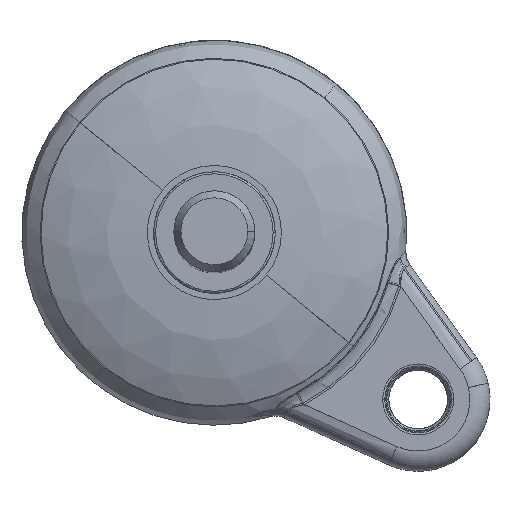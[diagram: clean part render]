
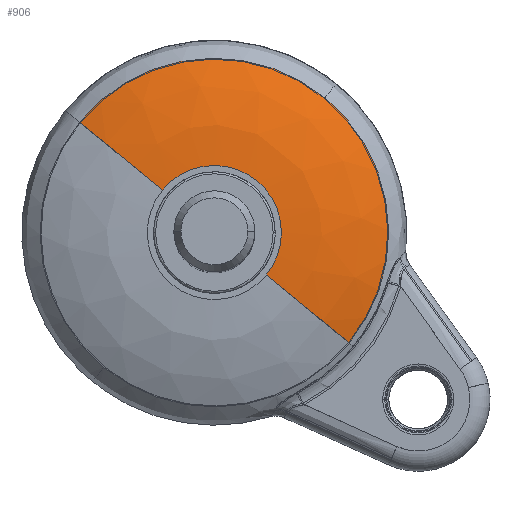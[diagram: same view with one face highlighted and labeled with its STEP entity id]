
A CAD part, top view. The second image highlights one B-rep face of the part: STEP entity #906.
In plain terms, the highlighted free-form (B-spline) face has degree [2, 2] with [7, 5] control points.
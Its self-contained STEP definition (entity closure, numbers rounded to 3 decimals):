
#18 = EDGE_CURVE ( 'NONE', #8350, #10184, #5602, .T. ) ;
#225 = CARTESIAN_POINT ( 'NONE',  ( 41.484, 50.683, -27.297 ) ) ;
#229 = EDGE_CURVE ( 'NONE', #10184, #7020, #1542, .T. ) ;
#271 = CARTESIAN_POINT ( 'NONE',  ( 25.899, 31.643, 7.407 ) ) ;
#390 = DIRECTION ( 'NONE',  ( -0.774, 0.633, 0. ) ) ;
#444 = CARTESIAN_POINT ( 'NONE',  ( 0., 0., -119.672 ) ) ;
#906 = ADVANCED_FACE ( 'NONE', ( #1762 ), #5488, .T. ) ;
#965 = CARTESIAN_POINT ( 'NONE',  ( 0., 0., -4.328 ) ) ;
#1078 = CARTESIAN_POINT ( 'NONE',  ( -31.643, 25.899, -131.407 ) ) ;
#1130 = CARTESIAN_POINT ( 'NONE',  ( 41.484, 50.683, -96.703 ) ) ;
#1180 = CARTESIAN_POINT ( 'NONE',  ( -9.199, 92.167, -96.703 ) ) ;
#1253 = CARTESIAN_POINT ( 'NONE',  ( -9.199, 92.167, -27.297 ) ) ;
#1309 = CARTESIAN_POINT ( 'NONE',  ( 57.068, 69.724, -62. ) ) ;
#1542 =( BOUNDED_CURVE ( )  B_SPLINE_CURVE ( 2, ( #8364, #11176, #6060 ),
 .UNSPECIFIED., .F., .T. ) 
 B_SPLINE_CURVE_WITH_KNOTS ( ( 3, 3 ),
 ( -0.198, -0.078 ),
 .UNSPECIFIED. ) 
 CURVE ( )  GEOMETRIC_REPRESENTATION_ITEM ( )  RATIONAL_B_SPLINE_CURVE ( ( 0.911, 0.899, 0.934 ) ) 
 REPRESENTATION_ITEM ( '' )  );
#1610 = ORIENTED_EDGE ( 'NONE', *, *, #18, .F. ) ;
#1731 = CARTESIAN_POINT ( 'NONE',  ( -12.807, 10.483, -2. ) ) ;
#1762 = FACE_OUTER_BOUND ( 'NONE', #4114, .T. ) ;
#1867 = CARTESIAN_POINT ( 'NONE',  ( 0., 0., -4.328 ) ) ;
#1986 = CARTESIAN_POINT ( 'NONE',  ( -50.683, 41.484, -27.297 ) ) ;
#2023 = DIRECTION ( 'NONE',  ( 0.774, -0.633, 0. ) ) ;
#2204 = ORIENTED_EDGE ( 'NONE', *, *, #3840, .T. ) ;
#2222 = CARTESIAN_POINT ( 'NONE',  ( -50.683, 41.484, -96.703 ) ) ;
#2451 = ORIENTED_EDGE ( 'NONE', *, *, #5568, .T. ) ;
#2829 = CARTESIAN_POINT ( 'NONE',  ( 92.167, 9.2, -27.297 ) ) ;
#2892 = CARTESIAN_POINT ( 'NONE',  ( 126.792, 12.656, -62. ) ) ;
#3567 = CARTESIAN_POINT ( 'NONE',  ( 0., 0., -4.328 ) ) ;
#3663 = CARTESIAN_POINT ( 'NONE',  ( 0., 0., -8.158 ) ) ;
#3686 = CARTESIAN_POINT ( 'NONE',  ( 0., 0., -119.672 ) ) ;
#3740 = CARTESIAN_POINT ( 'NONE',  ( -12.656, 126.792, -62. ) ) ;
#3840 = EDGE_CURVE ( 'NONE', #8350, #5041, #4334, .T. ) ;
#4114 = EDGE_LOOP ( 'NONE', ( #4536, #1610, #2204, #2451 ) ) ;
#4191 = AXIS2_PLACEMENT_3D ( 'NONE', #6333, #8086, #390 ) ;
#4334 =( BOUNDED_CURVE ( )  B_SPLINE_CURVE ( 2, ( #10488, #6103, #7928 ),
 .UNSPECIFIED., .F., .T. ) 
 B_SPLINE_CURVE_WITH_KNOTS ( ( 3, 3 ),
 ( -0.198, -0.078 ),
 .UNSPECIFIED. ) 
 CURVE ( )  GEOMETRIC_REPRESENTATION_ITEM ( )  RATIONAL_B_SPLINE_CURVE ( ( 0.911, 0.899, 0.934 ) ) 
 REPRESENTATION_ITEM ( '' )  );
#4536 = ORIENTED_EDGE ( 'NONE', *, *, #229, .F. ) ;
#5041 = VERTEX_POINT ( 'NONE', #1731 ) ;
#5276 = CARTESIAN_POINT ( 'NONE',  ( 0., 0., -4.328 ) ) ;
#5447 = CARTESIAN_POINT ( 'NONE',  ( 69.724, -57.068, -62. ) ) ;
#5488 =( BOUNDED_SURFACE ( )  B_SPLINE_SURFACE ( 2, 2, ( 
 ( #6164, #5276, #965, #3567, #1867 ),
 ( #9006, #10822, #271, #7993, #9906 ),
 ( #5498, #2829, #225, #1253, #1986 ),
 ( #5447, #2892, #1309, #3740, #10600 ),
 ( #9982, #5554, #1130, #1180, #2222 ),
 ( #5672, #7189, #6386, #5618, #1078 ),
 ( #3686, #8898, #444, #7360, #7137 ) ),
 .UNSPECIFIED., .F., .F., .T. ) 
 B_SPLINE_SURFACE_WITH_KNOTS ( ( 3, 2, 2, 3 ),
 ( 3, 2, 3 ),
 ( 0., 0.333, 0.667, 1. ),
 ( 0., 0.25, 0.5 ),
 .UNSPECIFIED. ) 
 GEOMETRIC_REPRESENTATION_ITEM ( )  RATIONAL_B_SPLINE_SURFACE ( (
 ( 1., 0.707, 1., 0.707, 1.),
 ( 0.816, 0.577, 0.816, 0.577, 0.816),
 ( 1., 0.707, 1., 0.707, 1.),
 ( 0.816, 0.577, 0.816, 0.577, 0.816),
 ( 1., 0.707, 1., 0.707, 1.),
 ( 0.816, 0.577, 0.816, 0.577, 0.816),
 ( 1., 0.707, 1., 0.707, 1.) ) ) 
 REPRESENTATION_ITEM ( '' )  SURFACE ( )  );
#5498 = CARTESIAN_POINT ( 'NONE',  ( 50.683, -41.484, -27.297 ) ) ;
#5554 = CARTESIAN_POINT ( 'NONE',  ( 92.167, 9.2, -96.703 ) ) ;
#5568 = EDGE_CURVE ( 'NONE', #5041, #7020, #8520, .T. ) ;
#5602 = CIRCLE ( 'NONE', #8494, 43.028 ) ;
#5618 = CARTESIAN_POINT ( 'NONE',  ( -5.743, 57.542, -131.407 ) ) ;
#5672 = CARTESIAN_POINT ( 'NONE',  ( 31.643, -25.899, -131.407 ) ) ;
#6060 = CARTESIAN_POINT ( 'NONE',  ( 12.807, -10.482, -2. ) ) ;
#6103 = CARTESIAN_POINT ( 'NONE',  ( -23.606, 19.321, -2. ) ) ;
#6164 = CARTESIAN_POINT ( 'NONE',  ( 0., 0., -4.328 ) ) ;
#6333 = CARTESIAN_POINT ( 'NONE',  ( 0., 0., -2. ) ) ;
#6386 = CARTESIAN_POINT ( 'NONE',  ( 25.899, 31.643, -131.407 ) ) ;
#7020 = VERTEX_POINT ( 'NONE', #9300 ) ;
#7137 = CARTESIAN_POINT ( 'NONE',  ( 0., 0., -119.672 ) ) ;
#7189 = CARTESIAN_POINT ( 'NONE',  ( 57.542, 5.744, -131.407 ) ) ;
#7360 = CARTESIAN_POINT ( 'NONE',  ( 0., 0., -119.672 ) ) ;
#7835 = CARTESIAN_POINT ( 'NONE',  ( 33.297, -27.253, -8.158 ) ) ;
#7928 = CARTESIAN_POINT ( 'NONE',  ( -12.807, 10.483, -2. ) ) ;
#7993 = CARTESIAN_POINT ( 'NONE',  ( -5.743, 57.542, 7.407 ) ) ;
#8086 = DIRECTION ( 'NONE',  ( 0., 0., -1. ) ) ;
#8350 = VERTEX_POINT ( 'NONE', #10010 ) ;
#8364 = CARTESIAN_POINT ( 'NONE',  ( 33.297, -27.253, -8.158 ) ) ;
#8494 = AXIS2_PLACEMENT_3D ( 'NONE', #3663, #10579, #2023 ) ;
#8520 = CIRCLE ( 'NONE', #4191, 16.55 ) ;
#8898 = CARTESIAN_POINT ( 'NONE',  ( 0., 0., -119.672 ) ) ;
#9006 = CARTESIAN_POINT ( 'NONE',  ( 31.643, -25.899, 7.407 ) ) ;
#9300 = CARTESIAN_POINT ( 'NONE',  ( 12.807, -10.482, -2. ) ) ;
#9906 = CARTESIAN_POINT ( 'NONE',  ( -31.643, 25.899, 7.407 ) ) ;
#9982 = CARTESIAN_POINT ( 'NONE',  ( 50.683, -41.484, -96.703 ) ) ;
#10010 = CARTESIAN_POINT ( 'NONE',  ( -33.297, 27.253, -8.158 ) ) ;
#10184 = VERTEX_POINT ( 'NONE', #7835 ) ;
#10488 = CARTESIAN_POINT ( 'NONE',  ( -33.297, 27.253, -8.158 ) ) ;
#10579 = DIRECTION ( 'NONE',  ( 0., 0., -1. ) ) ;
#10600 = CARTESIAN_POINT ( 'NONE',  ( -69.724, 57.068, -62. ) ) ;
#10822 = CARTESIAN_POINT ( 'NONE',  ( 57.542, 5.744, 7.407 ) ) ;
#11176 = CARTESIAN_POINT ( 'NONE',  ( 23.606, -19.321, -2. ) ) ;
